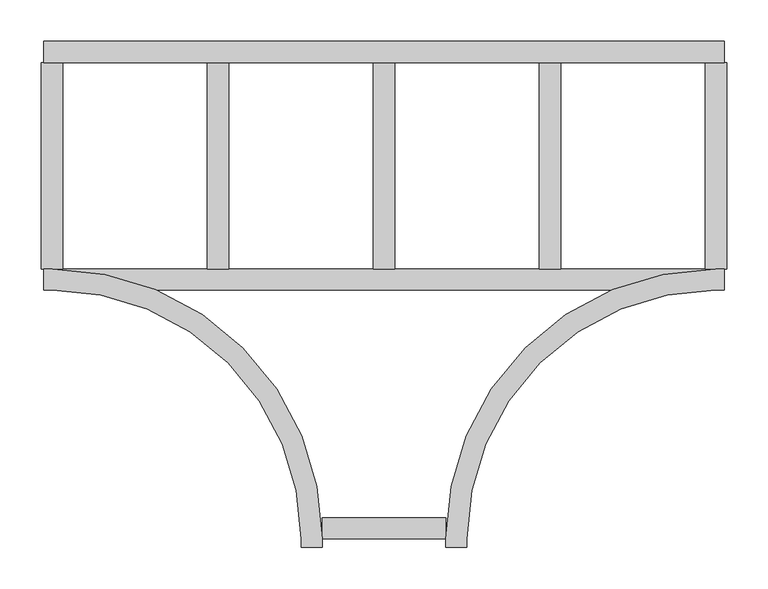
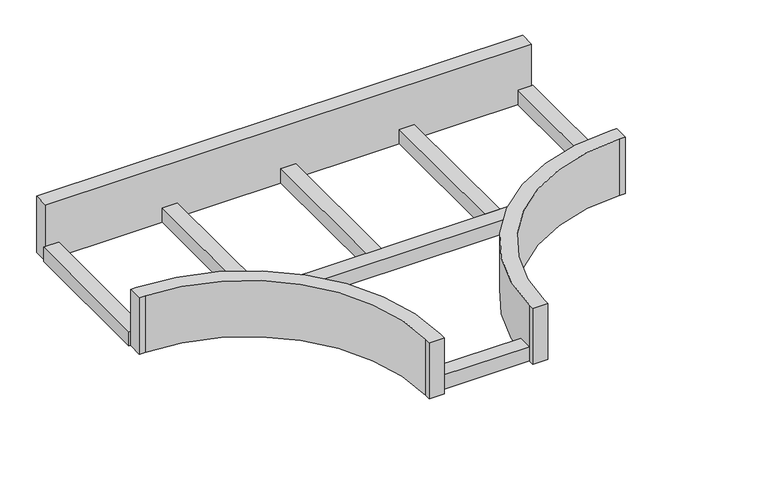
"""IFC4 building model written with IfcOpenShell, lengths in millimetres: cable carrier fitting geometry, ADSK_Ответвление_Лестничный лоток : Радиус 300 мм."""

from ifc_helpers import new_model, si_unit, frame, origin, place, context, project, spatial, polyline, circle_curve, outline, extrude, faceted_brep, source, transform, mapped, element, save
from ifc_brep_helpers import plane_surface, cylinder_surface, revolved_surface, advanced_brep


def cable_carrier_fitting_cb648aa1(model_context):
    return source(origin(), model_context, "Body", "SolidModel", [
        extrude(outline(polyline([(74.6, -424.6), (74.6, -450.0), (-74.6, -450.0), (-74.6, -424.6), (74.6, -424.6)])), frame((0.0, 0.0, -50.0), z_axis=(0.0, 0.0, 1.0), x_axis=(1.0, 0.0, 0.0)), (0.0, 0.0, 1.0), 25.4),
        extrude(outline(polyline([(412.7, 124.6), (412.7, -124.6), (387.3, -124.6), (387.3, 124.6), (412.7, 124.6)])), frame((0.0, 0.0, -50.0), z_axis=(0.0, 0.0, 1.0), x_axis=(1.0, 0.0, 0.0)), (0.0, 0.0, 1.0), 25.4),
        extrude(outline(polyline([(212.7, 124.6), (212.7, -124.6), (187.3, -124.6), (187.3, 124.6), (212.7, 124.6)])), frame((0.0, 0.0, -50.0), z_axis=(0.0, 0.0, 1.0), x_axis=(1.0, 0.0, 0.0)), (0.0, 0.0, 1.0), 25.4),
        extrude(outline(polyline([(12.7, 124.6), (12.7, -124.6), (-12.7, -124.6), (-12.7, 124.6), (12.7, 124.6)])), frame((0.0, 0.0, -50.0), z_axis=(0.0, 0.0, 1.0), x_axis=(1.0, 0.0, 0.0)), (0.0, 0.0, 1.0), 25.4),
        extrude(outline(polyline([(-187.3, 124.6), (-187.3, -124.6), (-212.7, -124.6), (-212.7, 124.6), (-187.3, 124.6)])), frame((0.0, 0.0, -50.0), z_axis=(0.0, 0.0, 1.0), x_axis=(1.0, 0.0, 0.0)), (0.0, 0.0, 1.0), 25.4),
        extrude(outline(polyline([(-387.3, 124.6), (-387.3, -124.6), (-412.7, -124.6), (-412.7, 124.6), (-387.3, 124.6)])), frame((0.0, 0.0, -50.0), z_axis=(0.0, 0.0, 1.0), x_axis=(1.0, 0.0, 0.0)), (0.0, 0.0, 1.0), 25.4),
        advanced_brep(
        [(-100.0, -450.0, 50.0), (-100.0, -460.0, 50.0), (-74.6, -460.0, 50.0), (-74.6, -450.0, 50.0), (-400.0, -124.6, 50.0), (-410.0, -124.6, 50.0), (-410.0, -150.0, 50.0), (-400.0, -150.0, 50.0), (100.0, -450.0, 50.0), (400.0, -150.0, 50.0), (410.0, -150.0, 50.0), (410.0, -124.6, 50.0), (400.0, -124.6, 50.0), (74.6, -450.0, 50.0), (74.6, -460.0, 50.0), (100.0, -460.0, 50.0), (-100.0, -450.0, -50.0), (-400.0, -150.0, -50.0), (-410.0, -150.0, -50.0), (-410.0, -124.6, -50.0), (410.0, -124.6, -50.0), (410.0, -150.0, -50.0), (400.0, -150.0, -50.0), (100.0, -450.0, -50.0), (100.0, -460.0, -50.0), (74.6, -460.0, -50.0), (74.6, -450.0, -50.0), (273.9636561, -150.0, -50.0), (-273.9636561, -150.0, -50.0), (-74.6, -450.0, -50.0), (-74.6, -460.0, -50.0), (-100.0, -460.0, -50.0), (-273.9636561, -150.0, -24.6), (-400.0, -124.6, -24.6), (400.0, -124.6, -24.6), (-400.0, -150.0, -24.6), (400.0, -150.0, -24.6), (273.9636561, -150.0, -24.6)],
        [
            (0, 1),
            (1, 2),
            (2, 3),
            (3, 4, circle_curve(frame((-400.0, -450.0, 50.0), z_axis=(0.0, 0.0, 1.0), x_axis=(1.0, 0.0, 0.0)), 325.4)),
            (4, 5),
            (5, 6),
            (6, 7),
            (7, 0, circle_curve(frame((-400.0, -450.0, 50.0), z_axis=(0.0, 0.0, -1.0), x_axis=(1.0, 0.0, 0.0)), 300.0)),
            (8, 9, circle_curve(frame((400.0, -450.0, 50.0), z_axis=(0.0, 0.0, -1.0), x_axis=(1.0, 0.0, 0.0)), 300.0)),
            (9, 10),
            (10, 11),
            (11, 12),
            (12, 13, circle_curve(frame((400.0, -450.0, 50.0), z_axis=(0.0, 0.0, 1.0), x_axis=(1.0, 0.0, 0.0)), 325.4)),
            (13, 14),
            (14, 15),
            (15, 8),
            (16, 17, circle_curve(frame((-400.0, -450.0, -50.0), z_axis=(0.0, 0.0, 1.0), x_axis=(1.0, 0.0, 0.0)), 300.0)),
            (17, 18),
            (18, 19),
            (19, 20),
            (20, 21),
            (21, 22),
            (22, 23, circle_curve(frame((400.0, -450.0, -50.0), z_axis=(0.0, 0.0, 1.0), x_axis=(1.0, 0.0, 0.0)), 300.0)),
            (23, 24),
            (24, 25),
            (25, 26),
            (26, 27, circle_curve(frame((400.0, -450.0, -50.0), z_axis=(0.0, 0.0, -1.0), x_axis=(1.0, 0.0, 0.0)), 325.4)),
            (27, 28),
            (28, 29, circle_curve(frame((-400.0, -450.0, -50.0), z_axis=(0.0, 0.0, -1.0), x_axis=(1.0, 0.0, 0.0)), 325.4)),
            (29, 30),
            (30, 31),
            (31, 16),
            (0, 16),
            (31, 1),
            (30, 2),
            (29, 3),
            (28, 32),
            (32, 33, circle_curve(frame((-400.0, -450.0, -24.6), z_axis=(0.0, 0.0, 1.0), x_axis=(1.0, 0.0, 0.0)), 325.4)),
            (33, 4),
            (33, 34),
            (34, 12),
            (11, 20),
            (19, 5),
            (18, 6),
            (17, 35),
            (35, 7),
            (8, 23),
            (22, 36),
            (36, 9),
            (21, 10),
            (34, 37, circle_curve(frame((400.0, -450.0, -24.6), z_axis=(0.0, 0.0, 1.0), x_axis=(1.0, 0.0, 0.0)), 325.4)),
            (37, 27),
            (26, 13),
            (25, 14),
            (24, 15),
            (32, 37),
        ],
        [
            plane_surface(frame((-100.0, -450.0, 50.0), z_axis=(0.0, 0.0, 1.0), x_axis=(0.0, -1.0, 0.0))),
            plane_surface(frame((-100.0, -450.0, -50.0), z_axis=(0.0, 0.0, -1.0), x_axis=(0.0, 1.0, 0.0))),
            plane_surface(frame((-100.0, -450.0, 50.0), z_axis=(-1.0, 0.0, 0.0), x_axis=(0.0, 0.0, -1.0))),
            plane_surface(frame((-100.0, -460.0, 50.0), z_axis=(0.0, -1.0, 0.0), x_axis=(0.0, 0.0, -1.0))),
            plane_surface(frame((-74.6, -460.0, 50.0), z_axis=(1.0, 0.0, 0.0), x_axis=(0.0, 0.0, -1.0))),
            cylinder_surface(frame((-400.0, -450.0, -50.0), z_axis=(0.0, 0.0, 1.0), x_axis=(1.0, 0.0, 0.0)), 325.4),
            plane_surface(frame((-400.0, -124.6, 50.0), z_axis=(0.0, 1.0, 0.0), x_axis=(0.0, 0.0, -1.0))),
            plane_surface(frame((-410.0, -124.6, 50.0), z_axis=(-1.0, 0.0, 0.0), x_axis=(0.0, 0.0, -1.0))),
            plane_surface(frame((-410.0, -150.0, 50.0), z_axis=(0.0, -1.0, 0.0), x_axis=(0.0, 0.0, -1.0))),
            revolved_surface(polyline([(-100.0, -450.0, -50.0), (-100.0, -450.0, 50.0)]), (-400.0, -450.0, -50.0), (0.0, 0.0, -1.0)),
            revolved_surface(polyline([(700.0, -450.0, -50.0), (700.0, -450.0, 50.0)]), (400.0, -450.0, 0.0), (0.0, 0.0, -1.0)),
            plane_surface(frame((400.0, -150.0, 50.0), z_axis=(0.0, -1.0, 0.0), x_axis=(0.0, 0.0, -1.0))),
            plane_surface(frame((410.0, -150.0, 50.0), z_axis=(1.0, 0.0, 0.0), x_axis=(0.0, 0.0, -1.0))),
            cylinder_surface(frame((400.0, -450.0, 0.0), z_axis=(0.0, 0.0, 1.0), x_axis=(1.0, 0.0, 0.0)), 325.4),
            plane_surface(frame((74.6, -450.0, 50.0), z_axis=(-1.0, 0.0, 0.0), x_axis=(0.0, 0.0, -1.0))),
            plane_surface(frame((74.6, -460.0, 50.0), z_axis=(0.0, -1.0, 0.0), x_axis=(0.0, 0.0, -1.0))),
            plane_surface(frame((100.0, -460.0, 50.0), z_axis=(1.0, 0.0, 0.0), x_axis=(0.0, 0.0, -1.0))),
            plane_surface(frame((-400.0, -124.6, -24.6), z_axis=(0.0, 0.0, 1.0), x_axis=(-1.0, 0.0, 0.0))),
            plane_surface(frame((-400.0, -150.0, -24.6), z_axis=(0.0, -1.0, 0.0), x_axis=(0.0, 0.0, -1.0))),
        ],
        [
            (0, [[1, 2, 3, 4, 5, 6, 7, 8]]),
            (0, [[9, 10, 11, 12, 13, 14, 15, 16]]),
            (1, [[17, 18, 19, 20, 21, 22, 23, 24, 25, 26, 27, 28, 29, 30, 31, 32]]),
            (2, [[-1, 33, -32, 34]]),
            (3, [[-2, -34, -31, 35]]),
            (4, [[-3, -35, -30, 36]]),
            (5, [[-4, -36, -29, 37, 38, 39]]),
            (6, [[-5, -39, 40, 41, -12, 42, -20, 43]]),
            (7, [[-6, -43, -19, 44]]),
            (8, [[-7, -44, -18, 45, 46]]),
            (9, [[-8, -46, -45, -17, -33]]),
            (10, [[-9, 47, -23, 48, 49]]),
            (11, [[-10, -49, -48, -22, 50]]),
            (12, [[-11, -50, -21, -42]]),
            (13, [[-13, -41, 51, 52, -27, 53]]),
            (14, [[-14, -53, -26, 54]]),
            (15, [[-15, -54, -25, 55]]),
            (16, [[-16, -55, -24, -47]]),
            (17, [[-40, -38, 56, -51]]),
            (18, [[-28, -52, -56, -37]]),
        ],
    ),
        faceted_brep([(410.0, 150.0, 50.0), (-410.0, 150.0, 50.0), (-410.0, 124.6, 50.0), (410.0, 124.6, 50.0), (410.0, 150.0, -50.0), (410.0, 124.6, -50.0), (-410.0, 124.6, -50.0), (-410.0, 150.0, -50.0)], [[[0, 1, 2, 3]], [[4, 5, 6, 7]], [[1, 0, 4, 7]], [[2, 1, 7, 6]], [[3, 2, 6, 5]], [[0, 3, 5, 4]]]),
    ])


if __name__ == "__main__":
    model = new_model("IFC4")
    model_context = context("Model", 3, world=origin())
    ifc_project = project(units=[si_unit("LENGTHUNIT", "METRE", prefix="MILLI")], contexts=[model_context])
    site = spatial("IfcSite", under=ifc_project)
    building = spatial("IfcBuilding", under=site)
    placement = place(None, origin())
    cable_carrier_fitting_shape = cable_carrier_fitting_cb648aa1(model_context)
    element("IfcCableCarrierFitting", 1, ObjectType="ADSK_Ответвление_Лестничный лоток : Радиус 300 мм", at=placement, inside=building, context=model_context, shape_type="MappedRepresentation", body=[
        mapped(cable_carrier_fitting_shape, transform((0.0, 0.0, 0.0), x_axis=(1.0, 0.0, 0.0), y_axis=(0.0, 1.0, 0.0), z_axis=(0.0, 0.0, 1.0))),
    ])
    save(model, "model.ifc")
